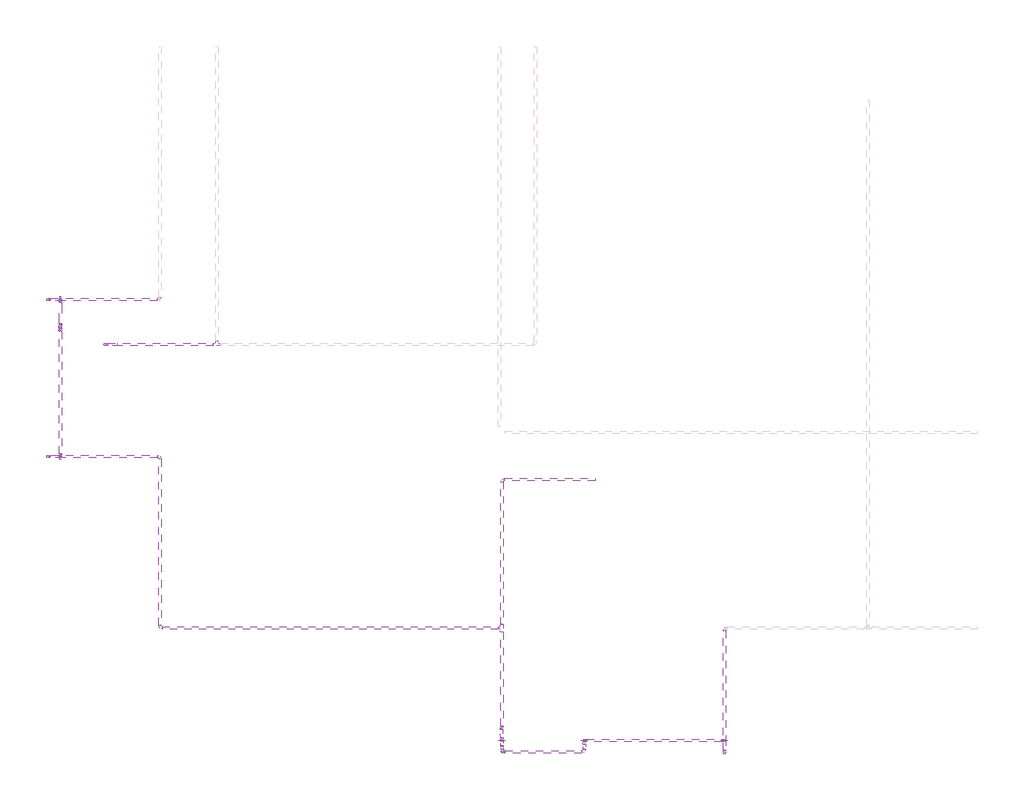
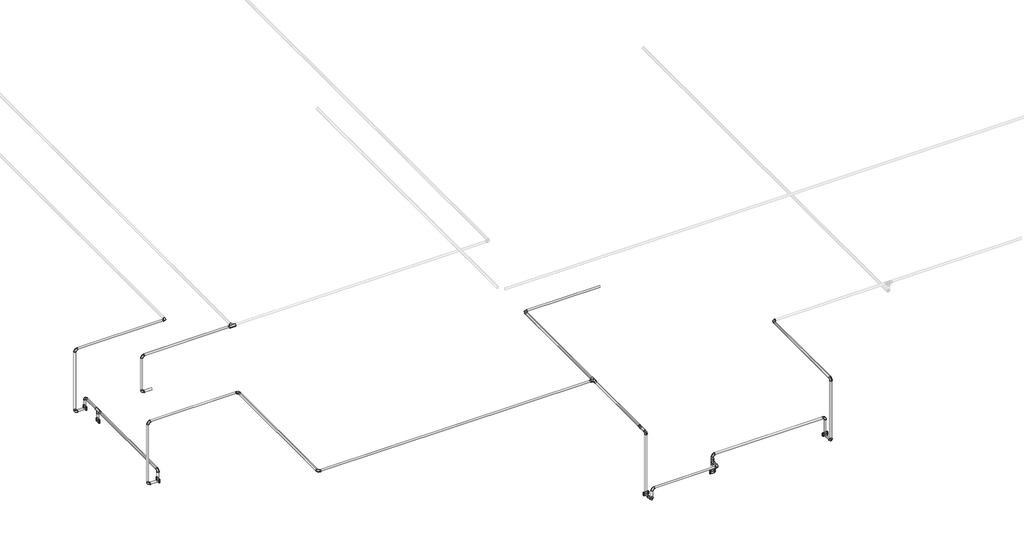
# One storey, part 1 of 40: 34 cable carrier segments, 28 cable carrier fittings, 6 electric appliances.
"""IFC4 building model written with IfcOpenShell, lengths in millimetres."""

from ifc_helpers import new_model, si_unit, point, frame, frame_2d, origin, place, context, project, spatial, circle_curve, trimmed, segment, composite_curve, outline, extrude, transform, mapped, element, save
from components import cable_carrier_fitting_69f1a801, cable_carrier_fitting_ac595e77, cable_carrier_fitting_7c9a67d1, cable_carrier_fitting_f46455be, cable_carrier_fitting_3bca51ac, cable_carrier_fitting_8fd13dfc, electric_appliance_5961a143

model = new_model("IFC4")

# Units and contexts
model_context = context("Model", 3, world=origin())
ifc_project = project(units=[si_unit("LENGTHUNIT", "METRE", prefix="MILLI")], contexts=[model_context])

# Site, building, storey
site = spatial("IfcSite", under=ifc_project)
building = spatial("IfcBuilding", under=site)
storey = spatial("IfcBuildingStorey", under=building, Name="1 этаж", Elevation=0.0)

# Cable carrier fittings
placement = place(None, origin())
cable_carrier_fitting_shape = cable_carrier_fitting_69f1a801(model_context)
element("IfcCableCarrierFitting", 1, ObjectType="ADSK_Поворот_Минимальный размер : Неспецифицируемый", at=placement, inside=storey, context=model_context, shape_type="MappedRepresentation", body=[
    mapped(cable_carrier_fitting_shape, transform((-32971.3240021, -12259.3629895, 2720.0), x_axis=(0.0, 0.0, 1.0), y_axis=(-1.0, 0.0, 0.0), z_axis=(0.0, -1.0, 0.0))),
])
element("IfcCableCarrierFitting", 2, ObjectType="ADSK_Поворот_Минимальный размер : Неспецифицируемый", at=placement, inside=storey, context=model_context, shape_type="MappedRepresentation", body=[
    mapped(cable_carrier_fitting_shape, transform((-34092.3240021, -12259.3629895, 2720.0), x_axis=(0.0, 0.0, 1.0), y_axis=(1.0, 0.0, 0.0), z_axis=(0.0, 1.0, 0.0))),
])
element("IfcCableCarrierFitting", 3, ObjectType="ADSK_Поворот_Минимальный размер : Неспецифицируемый", at=placement, inside=storey, context=model_context, shape_type="MappedRepresentation", body=[
    mapped(cable_carrier_fitting_shape, transform((-34092.3240021, -12351.2996994, 2650.0), x_axis=(1.0, 0.0, 0.0), y_axis=(0.0, 1.0, 0.0), z_axis=(0.0, 0.0, 1.0))),
])
element("IfcCableCarrierFitting", 4, ObjectType="ADSK_Поворот_Минимальный размер : Неспецифицируемый", at=placement, inside=storey, context=model_context, shape_type="MappedRepresentation", body=[
    mapped(cable_carrier_fitting_shape, transform((-32971.3240021, -12359.5627951, 2534.0911237), x_axis=(0.0, -1.0, 0.0), y_axis=(0.0, 0.0, 1.0), z_axis=(-1.0, 0.0, 0.0))),
])
element("IfcCableCarrierFitting", 5, ObjectType="ADSK_Поворот_Минимальный размер : Неспецифицируемый", at=placement, inside=storey, context=model_context, shape_type="MappedRepresentation", body=[
    mapped(cable_carrier_fitting_shape, transform((-32971.3240021, -12359.5627951, 3187.0), x_axis=(0.0, 0.0, 1.0), y_axis=(0.0, 1.0, 0.0), z_axis=(-1.0, 0.0, 0.0))),
])
element("IfcCableCarrierFitting", 6, ObjectType="ADSK_Поворот_Минимальный размер : Неспецифицируемый", at=placement, inside=storey, context=model_context, shape_type="MappedRepresentation", body=[
    mapped(cable_carrier_fitting_shape, transform((-32971.3240021, -11359.5627951, 3187.0), x_axis=(-1.0, 0.0, 0.0), y_axis=(0.0, -1.0, 0.0), z_axis=(0.0, 0.0, 1.0))),
])
element("IfcCableCarrierFitting", 7, ObjectType="ADSK_Поворот_Минимальный размер : Неспецифицируемый", at=placement, inside=storey, context=model_context, shape_type="MappedRepresentation", body=[
    mapped(cable_carrier_fitting_shape, transform((-34752.3240021, -12259.3629895, 3187.0), x_axis=(0.0, 0.0, 1.0), y_axis=(-0.01289655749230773, 0.9999168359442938, 0.0), z_axis=(-0.9999168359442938, -0.01289655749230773, 0.0))),
])
element("IfcCableCarrierFitting", 8, ObjectType="ADSK_Поворот_Минимальный размер : Неспецифицируемый", at=placement, inside=storey, context=model_context, shape_type="MappedRepresentation", body=[
    mapped(cable_carrier_fitting_shape, transform((-38286.3240021, -8731.3629895, 2650.0), x_axis=(0.0, 0.0, 1.0), y_axis=(0.0, -1.0, 0.0), z_axis=(1.0, 0.0, 0.0))),
])
element("IfcCableCarrierFitting", 9, ObjectType="ADSK_Поворот_Минимальный размер : Неспецифицируемый", at=placement, inside=storey, context=model_context, shape_type="MappedRepresentation", body=[
    mapped(cable_carrier_fitting_shape, transform((-38286.3240021, -9985.3629895, 2650.0), x_axis=(0.0, 0.0, 1.0), y_axis=(0.0, 1.0, 0.0), z_axis=(-1.0, 0.0, 0.0))),
])
element("IfcCableCarrierFitting", 10, ObjectType="ADSK_Поворот_Минимальный размер : Неспецифицируемый", at=placement, inside=storey, context=model_context, shape_type="MappedRepresentation", body=[
    mapped(cable_carrier_fitting_shape, transform((-38386.5238077, -8731.3629895, 2534.0911237), x_axis=(-1.0, 0.0, 0.0), y_axis=(0.0, 0.0, 1.0), z_axis=(0.0, 1.0, 0.0))),
])
element("IfcCableCarrierFitting", 11, ObjectType="ADSK_Поворот_Минимальный размер : Неспецифицируемый", at=placement, inside=storey, context=model_context, shape_type="MappedRepresentation", body=[
    mapped(cable_carrier_fitting_shape, transform((-38386.5238077, -8731.3629895, 3187.0), x_axis=(0.0, 0.0, 1.0), y_axis=(1.0, 0.0, 0.0), z_axis=(0.0, 1.0, 0.0))),
])
element("IfcCableCarrierFitting", 12, ObjectType="ADSK_Поворот_Минимальный размер : Неспецифицируемый", at=placement, inside=storey, context=model_context, shape_type="MappedRepresentation", body=[
    mapped(cable_carrier_fitting_shape, transform((-38386.5238077, -9985.3629895, 2534.0911237), x_axis=(-1.0, 0.0, 0.0), y_axis=(0.0, 0.0, 1.0), z_axis=(0.0, 1.0, 0.0))),
])
element("IfcCableCarrierFitting", 13, ObjectType="ADSK_Поворот_Минимальный размер : Неспецифицируемый", at=placement, inside=storey, context=model_context, shape_type="MappedRepresentation", body=[
    mapped(cable_carrier_fitting_shape, transform((-38386.5238077, -9985.3629895, 3187.0), x_axis=(0.0, 0.0, 1.0), y_axis=(1.0, 0.0, 0.0), z_axis=(0.0, 1.0, 0.0))),
])
element("IfcCableCarrierFitting", 14, ObjectType="ADSK_Поворот_Минимальный размер : Неспецифицируемый", at=placement, inside=storey, context=model_context, shape_type="MappedRepresentation", body=[
    mapped(cable_carrier_fitting_shape, transform((-37489.3240021, -9985.3629895, 3187.0), x_axis=(0.0, 1.0, 0.0), y_axis=(-1.0, 0.0, 0.0), z_axis=(0.0, 0.0, 1.0))),
])
element("IfcCableCarrierFitting", 15, ObjectType="ADSK_Поворот_Минимальный размер : Неспецифицируемый", at=placement, inside=storey, context=model_context, shape_type="MappedRepresentation", body=[
    mapped(cable_carrier_fitting_shape, transform((-37489.3240021, -8731.3629895, 3187.0), x_axis=(1.0, 0.0, 0.0), y_axis=(0.0, 1.0, 0.0), z_axis=(0.0, 0.0, 1.0))),
])
element("IfcCableCarrierFitting", 16, ObjectType="ADSK_Поворот_Минимальный размер : Неспецифицируемый", at=placement, inside=storey, context=model_context, shape_type="MappedRepresentation", body=[
    mapped(cable_carrier_fitting_shape, transform((-34752.3240021, -10170.3629895, 3187.0), x_axis=(-1.0, 0.0, 0.0), y_axis=(0.0, -1.0, 0.0), z_axis=(0.0, 0.0, 1.0))),
])
element("IfcCableCarrierFitting", 17, ObjectType="ADSK_Поворот_Минимальный размер : Неспецифицируемый", at=placement, inside=storey, context=model_context, shape_type="MappedRepresentation", body=[
    mapped(cable_carrier_fitting_shape, transform((-37489.3240021, -11359.5627951, 3187.0), x_axis=(0.0, -1.0, 0.0), y_axis=(1.0, 0.0, 0.0), z_axis=(0.0, 0.0, 1.0))),
])
element("IfcCableCarrierFitting", 18, ObjectType="ADSK_Поворот_Минимальный размер : Неспецифицируемый", at=placement, inside=storey, context=model_context, shape_type="MappedRepresentation", body=[
    mapped(cable_carrier_fitting_shape, transform((-34745.5114343, -12351.2996994, 2650.0), x_axis=(-1.0, 0.0, 0.0), y_axis=(0.0, 0.0, -1.0), z_axis=(0.0, -1.0, 0.0))),
])
element("IfcCableCarrierFitting", 19, ObjectType="ADSK_Поворот_Минимальный размер : Неспецифицируемый", at=placement, inside=storey, context=model_context, shape_type="MappedRepresentation", body=[
    mapped(cable_carrier_fitting_shape, transform((-37929.5238077, -9090.3629895, 2797.4861504), x_axis=(-1.0, 0.0, 0.0), y_axis=(0.0, 0.0, 1.0), z_axis=(0.0, 1.0, 0.0))),
])
element("IfcCableCarrierFitting", 20, ObjectType="ADSK_Поворот_Минимальный размер : Неспецифицируемый", at=placement, inside=storey, context=model_context, shape_type="MappedRepresentation", body=[
    mapped(cable_carrier_fitting_shape, transform((-37929.5238077, -9090.3629895, 3180.0), x_axis=(0.0, 0.0, 1.0), y_axis=(1.0, 0.0, 0.0), z_axis=(0.0, 1.0, 0.0))),
])
cable_carrier_fitting_2_shape = cable_carrier_fitting_ac595e77(model_context)
element("IfcCableCarrierFitting", 21, ObjectType="ADSK_Поворот_Минимальный размер : Неспецифицируемый", at=placement, inside=storey, context=model_context, shape_type="MappedRepresentation", body=[
    mapped(cable_carrier_fitting_2_shape, transform((-34753.8483727, -12169.5072851, 3187.0), x_axis=(-0.07233188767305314, -0.9973806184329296, 0.0), y_axis=(0.9973806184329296, -0.07233188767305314, 0.0), z_axis=(0.0, 0.0, 1.0))),
])
cable_carrier_fitting_3_shape = cable_carrier_fitting_7c9a67d1(model_context)
element("IfcCableCarrierFitting", 22, ObjectType="ADSK_Поворот_Минимальный размер : Неспецифицируемый", at=placement, inside=storey, context=model_context, shape_type="MappedRepresentation", body=[
    mapped(cable_carrier_fitting_3_shape, transform((-34752.3240021, -12148.4878187, 3187.0), x_axis=(0.07233188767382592, 0.9973806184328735, 0.0), y_axis=(-0.9973806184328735, 0.07233188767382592, 0.0), z_axis=(0.0, 0.0, 1.0))),
])
cable_carrier_fitting_4_shape = cable_carrier_fitting_f46455be(model_context)
element("IfcCableCarrierFitting", 23, ObjectType="ADSK_Поворот_Минимальный размер : Неспецифицируемый", at=placement, inside=storey, context=model_context, shape_type="MappedRepresentation", body=[
    mapped(cable_carrier_fitting_4_shape, transform((-34752.3240021, -12302.3629895, 2534.0911237), x_axis=(0.0, -1.0, 0.0), y_axis=(0.9999991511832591, 0.0, 0.0013029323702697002), z_axis=(-0.0013029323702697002, 0.0, 0.9999991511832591))),
])
cable_carrier_fitting_5_shape = cable_carrier_fitting_3bca51ac(model_context)
element("IfcCableCarrierFitting", 24, ObjectType="ADSK_Поворот_Минимальный размер : Неспецифицируемый", at=placement, inside=storey, context=model_context, shape_type="MappedRepresentation", body=[
    mapped(cable_carrier_fitting_5_shape, transform((-34745.5114343, -12351.2996994, 2534.1), x_axis=(0.0, 0.0, -1.0), y_axis=(-0.13788214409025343, 0.9904486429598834, 0.0), z_axis=(0.9904486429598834, 0.13788214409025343, 0.0))),
])
cable_carrier_fitting_6_shape = cable_carrier_fitting_8fd13dfc(model_context)
element("IfcCableCarrierFitting", 25, ObjectType="ADSK_Тройник : ПВХ", at=placement, inside=storey, context=model_context, shape_type="MappedRepresentation", body=[
    mapped(cable_carrier_fitting_6_shape, transform((-34092.3240021, -12259.3629895, 2650.0), x_axis=(0.0, 0.0, -1.0), y_axis=(0.0, 1.0, 0.0), z_axis=(1.0, 0.0, 0.0))),
])
element("IfcCableCarrierFitting", 26, ObjectType="ADSK_Тройник : ПВХ", at=placement, inside=storey, context=model_context, shape_type="MappedRepresentation", body=[
    mapped(cable_carrier_fitting_6_shape, transform((-38286.3240021, -8955.3629895, 2650.0), x_axis=(0.0, 1.0, 0.0), y_axis=(0.0, 0.0, 1.0), z_axis=(1.0, 0.0, 0.0))),
])
element("IfcCableCarrierFitting", 27, ObjectType="ADSK_Тройник : ПВХ", at=placement, inside=storey, context=model_context, shape_type="MappedRepresentation", body=[
    mapped(cable_carrier_fitting_6_shape, transform((-34752.3240021, -11359.5627951, 3187.0), x_axis=(0.0, -1.0, 0.0), y_axis=(1.0, 0.0, 0.0), z_axis=(0.0, 0.0, 1.0))),
])
element("IfcCableCarrierFitting", 28, ObjectType="ADSK_Тройник : ПВХ", at=placement, inside=storey, context=model_context, shape_type="MappedRepresentation", body=[
    mapped(cable_carrier_fitting_6_shape, transform((-37032.3240021, -9090.3629895, 3180.0), x_axis=(-1.0, 0.0, 0.0), y_axis=(0.0, -1.0, 0.0), z_axis=(0.0, 0.0, 1.0))),
])

# Cable carrier segments
element("IfcCableCarrierSegment", 29, ObjectType="Гофрированная труба", at=placement, inside=storey, context=model_context, shape_type="SweptSolid", body=[
    extrude(outline(composite_curve([segment(trimmed(circle_curve(frame_2d((-12259.3629895, 2720.0)), 10.0), [point((-12249.3629895, 2720.0))], [point((-12259.3629895, 2710.0))], False, "CARTESIAN"), True, "CONTINUOUS"), segment(trimmed(circle_curve(frame_2d((-12259.3629895, 2720.0)), 10.0), [point((-12259.3629895, 2710.0))], [point((-12269.3629895, 2720.0))], False, "CARTESIAN"), True, "CONTINUOUS"), segment(trimmed(circle_curve(frame_2d((-12259.3629895, 2720.0)), 10.0), [point((-12269.3629895, 2720.0))], [point((-12259.3629895, 2730.0))], False, "CARTESIAN"), True, "CONTINUOUS"), segment(trimmed(circle_curve(frame_2d((-12259.3629895, 2720.0)), 10.0), [point((-12259.3629895, 2730.0))], [point((-12249.3629895, 2720.0))], False, "CARTESIAN"), True, "CONTINUOUS")], self_intersect=False)), frame((-34071.3240021, 0.0, 0.0), z_axis=(1.0, 0.0, 0.0), x_axis=(0.0, 1.0, 0.0)), (0.0, 0.0, 1.0), 1079.0),
])
element("IfcCableCarrierSegment", 30, ObjectType="Гофрированная труба", at=placement, inside=storey, context=model_context, shape_type="SweptSolid", body=[
    extrude(outline(composite_curve([segment(trimmed(circle_curve(frame_2d((-32971.3240021, -12259.3629895)), 10.0), [point((-32981.3240021, -12259.3629895))], [point((-32971.3240021, -12249.3629895))], False, "CARTESIAN"), True, "CONTINUOUS"), segment(trimmed(circle_curve(frame_2d((-32971.3240021, -12259.3629895)), 10.0), [point((-32971.3240021, -12249.3629895))], [point((-32961.3240021, -12259.3629895))], False, "CARTESIAN"), True, "CONTINUOUS"), segment(trimmed(circle_curve(frame_2d((-32971.3240021, -12259.3629895)), 10.0), [point((-32961.3240021, -12259.3629895))], [point((-32971.3240021, -12269.3629895))], False, "CARTESIAN"), True, "CONTINUOUS"), segment(trimmed(circle_curve(frame_2d((-32971.3240021, -12259.3629895)), 10.0), [point((-32971.3240021, -12269.3629895))], [point((-32981.3240021, -12259.3629895))], False, "CARTESIAN"), True, "CONTINUOUS")], self_intersect=False)), frame((0.0, 0.0, 2563.1207114), z_axis=(0.0, 0.0, 1.0), x_axis=(1.0, 0.0, 0.0)), (0.0, 0.0, 1.0), 135.8792886),
])
element("IfcCableCarrierSegment", 31, ObjectType="Гофрированная труба", at=placement, inside=storey, context=model_context, shape_type="SweptSolid", body=[
    extrude(outline(composite_curve([segment(trimmed(circle_curve(frame_2d((0.0, 10.0)), 10.0), [point((-10.0, 10.0))], [point((0.0, 20.0))], False, "CARTESIAN"), True, "CONTINUOUS"), segment(trimmed(circle_curve(frame_2d((0.0, 10.0)), 10.0), [point((0.0, 20.0))], [point((10.0, 10.0))], False, "CARTESIAN"), True, "CONTINUOUS"), segment(trimmed(circle_curve(frame_2d((0.0, 10.0)), 10.0), [point((10.0, 10.0))], [point((0.0, 0.0))], False, "CARTESIAN"), True, "CONTINUOUS"), segment(trimmed(circle_curve(frame_2d((0.0, 10.0)), 10.0), [point((0.0, 0.0))], [point((-10.0, 10.0))], False, "CARTESIAN"), True, "CONTINUOUS")], self_intersect=False)), frame((-34092.3240021, -12269.3629895, 2680.0), z_axis=(0.0, 1.4889423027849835e-12, 1.0), x_axis=(1.0, 0.0, 0.0)), (0.0, 0.0, 1.0), 19.0),
])
element("IfcCableCarrierSegment", 32, ObjectType="Гофрированная труба", at=placement, inside=storey, context=model_context, shape_type="SweptSolid", body=[
    extrude(outline(composite_curve([segment(trimmed(circle_curve(frame_2d((-12351.2996994, 2650.0)), 10.0), [point((-12361.2996994, 2650.0))], [point((-12351.2996994, 2660.0))], False, "CARTESIAN"), True, "CONTINUOUS"), segment(trimmed(circle_curve(frame_2d((-12351.2996994, 2650.0)), 10.0), [point((-12351.2996994, 2660.0))], [point((-12341.2996994, 2650.0))], False, "CARTESIAN"), True, "CONTINUOUS"), segment(trimmed(circle_curve(frame_2d((-12351.2996994, 2650.0)), 10.0), [point((-12341.2996994, 2650.0))], [point((-12351.2996994, 2640.0))], False, "CARTESIAN"), True, "CONTINUOUS"), segment(trimmed(circle_curve(frame_2d((-12351.2996994, 2650.0)), 10.0), [point((-12351.2996994, 2640.0))], [point((-12361.2996994, 2650.0))], False, "CARTESIAN"), True, "CONTINUOUS")], self_intersect=False)), frame((-34724.5114343, 0.0, 0.0), z_axis=(1.0, 0.0, 0.0), x_axis=(0.0, 1.0, 0.0)), (0.0, 0.0, 1.0), 611.1874322),
])
element("IfcCableCarrierSegment", 33, ObjectType="Гофрированная труба", at=placement, inside=storey, context=model_context, shape_type="SweptSolid", body=[
    extrude(outline(composite_curve([segment(trimmed(circle_curve(frame_2d((2650.0, -34092.3240021)), 10.0), [point((2650.0, -34102.3240021))], [point((2640.0, -34092.3240021))], False, "CARTESIAN"), True, "CONTINUOUS"), segment(trimmed(circle_curve(frame_2d((2650.0, -34092.3240021)), 10.0), [point((2640.0, -34092.3240021))], [point((2650.0, -34082.3240021))], False, "CARTESIAN"), True, "CONTINUOUS"), segment(trimmed(circle_curve(frame_2d((2650.0, -34092.3240021)), 10.0), [point((2650.0, -34082.3240021))], [point((2660.0, -34092.3240021))], False, "CARTESIAN"), True, "CONTINUOUS"), segment(trimmed(circle_curve(frame_2d((2650.0, -34092.3240021)), 10.0), [point((2660.0, -34092.3240021))], [point((2650.0, -34102.3240021))], False, "CARTESIAN"), True, "CONTINUOUS")], self_intersect=False)), frame((0.0, -12330.2996994, 0.0), z_axis=(0.0, 1.0, 0.0), x_axis=(0.0, 0.0, 1.0)), (0.0, 0.0, 1.0), 40.9367099),
])
element("IfcCableCarrierSegment", 34, ObjectType="Гофрированная труба", at=placement, inside=storey, context=model_context, shape_type="SweptSolid", body=[
    extrude(outline(composite_curve([segment(trimmed(circle_curve(frame_2d((-34092.3240021, -12259.3629895)), 10.0), [point((-34102.3240021, -12259.3629895))], [point((-34092.3240021, -12249.3629895))], False, "CARTESIAN"), True, "CONTINUOUS"), segment(trimmed(circle_curve(frame_2d((-34092.3240021, -12259.3629895)), 10.0), [point((-34092.3240021, -12249.3629895))], [point((-34082.3240021, -12259.3629895))], False, "CARTESIAN"), True, "CONTINUOUS"), segment(trimmed(circle_curve(frame_2d((-34092.3240021, -12259.3629895)), 10.0), [point((-34082.3240021, -12259.3629895))], [point((-34092.3240021, -12269.3629895))], False, "CARTESIAN"), True, "CONTINUOUS"), segment(trimmed(circle_curve(frame_2d((-34092.3240021, -12259.3629895)), 10.0), [point((-34092.3240021, -12269.3629895))], [point((-34102.3240021, -12259.3629895))], False, "CARTESIAN"), True, "CONTINUOUS")], self_intersect=False)), frame((0.0, 0.0, 2563.1207114), z_axis=(0.0, 0.0, 1.0), x_axis=(1.0, 0.0, 0.0)), (0.0, 0.0, 1.0), 56.8792886),
])
element("IfcCableCarrierSegment", 35, ObjectType="Гофрированная труба", at=placement, inside=storey, context=model_context, shape_type="SweptSolid", body=[
    extrude(outline(composite_curve([segment(trimmed(circle_curve(frame_2d((3187.0, -32971.3240021)), 10.0), [point((3187.0, -32961.3240021))], [point((3197.0, -32971.3240021))], False, "CARTESIAN"), True, "CONTINUOUS"), segment(trimmed(circle_curve(frame_2d((3187.0, -32971.3240021)), 10.0), [point((3197.0, -32971.3240021))], [point((3187.0, -32981.3240021))], False, "CARTESIAN"), True, "CONTINUOUS"), segment(trimmed(circle_curve(frame_2d((3187.0, -32971.3240021)), 10.0), [point((3187.0, -32981.3240021))], [point((3177.0, -32971.3240021))], False, "CARTESIAN"), True, "CONTINUOUS"), segment(trimmed(circle_curve(frame_2d((3187.0, -32971.3240021)), 10.0), [point((3177.0, -32971.3240021))], [point((3187.0, -32961.3240021))], False, "CARTESIAN"), True, "CONTINUOUS")], self_intersect=False)), frame((0.0, -12338.5627951, 0.0), z_axis=(0.0, 1.0, 0.0), x_axis=(0.0, 0.0, 1.0)), (0.0, 0.0, 1.0), 958.0),
])
element("IfcCableCarrierSegment", 36, ObjectType="Гофрированная труба", at=placement, inside=storey, context=model_context, shape_type="SweptSolid", body=[
    extrude(outline(composite_curve([segment(trimmed(circle_curve(frame_2d((2534.0911237, -32971.3240021)), 10.0), [point((2534.0911237, -32981.3240021))], [point((2524.0911237, -32971.3240021))], False, "CARTESIAN"), True, "CONTINUOUS"), segment(trimmed(circle_curve(frame_2d((2534.0911237, -32971.3240021)), 10.0), [point((2524.0911237, -32971.3240021))], [point((2534.0911237, -32961.3240021))], False, "CARTESIAN"), True, "CONTINUOUS"), segment(trimmed(circle_curve(frame_2d((2534.0911237, -32971.3240021)), 10.0), [point((2534.0911237, -32961.3240021))], [point((2544.0911237, -32971.3240021))], False, "CARTESIAN"), True, "CONTINUOUS"), segment(trimmed(circle_curve(frame_2d((2534.0911237, -32971.3240021)), 10.0), [point((2544.0911237, -32971.3240021))], [point((2534.0911237, -32981.3240021))], False, "CARTESIAN"), True, "CONTINUOUS")], self_intersect=False)), frame((0.0, -12338.5627951, 0.0), z_axis=(0.0, 1.0, 0.0), x_axis=(0.0, 0.0, 1.0)), (0.0, 0.0, 1.0), 76.1998056),
])
element("IfcCableCarrierSegment", 37, ObjectType="Гофрированная труба", at=placement, inside=storey, context=model_context, shape_type="SweptSolid", body=[
    extrude(outline(composite_curve([segment(trimmed(circle_curve(frame_2d((-32971.3240021, -12359.5627951)), 10.0), [point((-32981.3240021, -12359.5627951))], [point((-32971.3240021, -12349.5627951))], False, "CARTESIAN"), True, "CONTINUOUS"), segment(trimmed(circle_curve(frame_2d((-32971.3240021, -12359.5627951)), 10.0), [point((-32971.3240021, -12349.5627951))], [point((-32961.3240021, -12359.5627951))], False, "CARTESIAN"), True, "CONTINUOUS"), segment(trimmed(circle_curve(frame_2d((-32971.3240021, -12359.5627951)), 10.0), [point((-32961.3240021, -12359.5627951))], [point((-32971.3240021, -12369.5627951))], False, "CARTESIAN"), True, "CONTINUOUS"), segment(trimmed(circle_curve(frame_2d((-32971.3240021, -12359.5627951)), 10.0), [point((-32971.3240021, -12369.5627951))], [point((-32981.3240021, -12359.5627951))], False, "CARTESIAN"), True, "CONTINUOUS")], self_intersect=False)), frame((0.0, 0.0, 2555.0911237), z_axis=(0.0, 0.0, 1.0), x_axis=(1.0, 0.0, 0.0)), (0.0, 0.0, 1.0), 610.9088763),
])
element("IfcCableCarrierSegment", 38, ObjectType="Гофрированная труба", at=placement, inside=storey, context=model_context, shape_type="SweptSolid", body=[
    extrude(outline(composite_curve([segment(trimmed(circle_curve(frame_2d((3187.0, -34752.3240021)), 10.0), [point((3187.0, -34762.3240021))], [point((3177.0, -34752.3240021))], False, "CARTESIAN"), True, "CONTINUOUS"), segment(trimmed(circle_curve(frame_2d((3187.0, -34752.3240021)), 10.0), [point((3177.0, -34752.3240021))], [point((3187.0, -34742.3240021))], False, "CARTESIAN"), True, "CONTINUOUS"), segment(trimmed(circle_curve(frame_2d((3187.0, -34752.3240021)), 10.0), [point((3187.0, -34742.3240021))], [point((3197.0, -34752.3240021))], False, "CARTESIAN"), True, "CONTINUOUS"), segment(trimmed(circle_curve(frame_2d((3187.0, -34752.3240021)), 10.0), [point((3197.0, -34752.3240021))], [point((3187.0, -34762.3240021))], False, "CARTESIAN"), True, "CONTINUOUS")], self_intersect=False)), frame((0.0, -12146.7635513, 0.0), z_axis=(0.0, 1.0, 0.0), x_axis=(0.0, 0.0, 1.0)), (0.0, 0.0, 1.0), 757.2007562),
])
element("IfcCableCarrierSegment", 39, ObjectType="Гофрированная труба", at=placement, inside=storey, context=model_context, shape_type="SweptSolid", body=[
    extrude(outline(composite_curve([segment(trimmed(circle_curve(frame_2d((-34752.3240021, -12259.3629895)), 10.0), [point((-34762.3240021, -12259.3629895))], [point((-34752.3240021, -12249.3629895))], False, "CARTESIAN"), True, "CONTINUOUS"), segment(trimmed(circle_curve(frame_2d((-34752.3240021, -12259.3629895)), 10.0), [point((-34752.3240021, -12249.3629895))], [point((-34742.3240021, -12259.3629895))], False, "CARTESIAN"), True, "CONTINUOUS"), segment(trimmed(circle_curve(frame_2d((-34752.3240021, -12259.3629895)), 10.0), [point((-34742.3240021, -12259.3629895))], [point((-34752.3240021, -12269.3629895))], False, "CARTESIAN"), True, "CONTINUOUS"), segment(trimmed(circle_curve(frame_2d((-34752.3240021, -12259.3629895)), 10.0), [point((-34752.3240021, -12269.3629895))], [point((-34762.3240021, -12259.3629895))], False, "CARTESIAN"), True, "CONTINUOUS")], self_intersect=False)), frame((0.0, 0.0, 2563.1207114), z_axis=(0.0, 0.0, 1.0), x_axis=(1.0, 0.0, 0.0)), (0.0, 0.0, 1.0), 602.8792886),
])
element("IfcCableCarrierSegment", 40, ObjectType="Гофрированная труба", at=placement, inside=storey, context=model_context, shape_type="SweptSolid", body=[
    extrude(outline(composite_curve([segment(trimmed(circle_curve(frame_2d((-11359.5627951, 3187.0)), 10.0), [point((-11369.5627951, 3187.0))], [point((-11359.5627951, 3197.0))], False, "CARTESIAN"), True, "CONTINUOUS"), segment(trimmed(circle_curve(frame_2d((-11359.5627951, 3187.0)), 10.0), [point((-11359.5627951, 3197.0))], [point((-11349.5627951, 3187.0))], False, "CARTESIAN"), True, "CONTINUOUS"), segment(trimmed(circle_curve(frame_2d((-11359.5627951, 3187.0)), 10.0), [point((-11349.5627951, 3187.0))], [point((-11359.5627951, 3177.0))], False, "CARTESIAN"), True, "CONTINUOUS"), segment(trimmed(circle_curve(frame_2d((-11359.5627951, 3187.0)), 10.0), [point((-11359.5627951, 3177.0))], [point((-11369.5627951, 3187.0))], False, "CARTESIAN"), True, "CONTINUOUS")], self_intersect=False)), frame((-37468.3240021, 0.0, 0.0), z_axis=(1.0, 0.0, 0.0), x_axis=(0.0, 1.0, 0.0)), (0.0, 0.0, 1.0), 2686.0),
])
element("IfcCableCarrierSegment", 41, ObjectType="Гофрированная труба", at=placement, inside=storey, context=model_context, shape_type="SweptSolid", body=[
    extrude(outline(composite_curve([segment(trimmed(circle_curve(frame_2d((-38286.3240021, -8955.3629895)), 10.0), [point((-38296.3240021, -8955.3629895))], [point((-38286.3240021, -8945.3629895))], False, "CARTESIAN"), True, "CONTINUOUS"), segment(trimmed(circle_curve(frame_2d((-38286.3240021, -8955.3629895)), 10.0), [point((-38286.3240021, -8945.3629895))], [point((-38276.3240021, -8955.3629895))], False, "CARTESIAN"), True, "CONTINUOUS"), segment(trimmed(circle_curve(frame_2d((-38286.3240021, -8955.3629895)), 10.0), [point((-38276.3240021, -8955.3629895))], [point((-38286.3240021, -8965.3629895))], False, "CARTESIAN"), True, "CONTINUOUS"), segment(trimmed(circle_curve(frame_2d((-38286.3240021, -8955.3629895)), 10.0), [point((-38286.3240021, -8965.3629895))], [point((-38296.3240021, -8955.3629895))], False, "CARTESIAN"), True, "CONTINUOUS")], self_intersect=False)), frame((0.0, 0.0, 2563.1207114), z_axis=(0.0, 0.0, 1.0), x_axis=(1.0, 0.0, 0.0)), (0.0, 0.0, 1.0), 56.8792886),
])
element("IfcCableCarrierSegment", 42, ObjectType="Гофрированная труба", at=placement, inside=storey, context=model_context, shape_type="SweptSolid", body=[
    extrude(outline(composite_curve([segment(trimmed(circle_curve(frame_2d((-38286.3240021, -9985.3629895)), 10.0), [point((-38296.3240021, -9985.3629895))], [point((-38286.3240021, -9975.3629895))], False, "CARTESIAN"), True, "CONTINUOUS"), segment(trimmed(circle_curve(frame_2d((-38286.3240021, -9985.3629895)), 10.0), [point((-38286.3240021, -9975.3629895))], [point((-38276.3240021, -9985.3629895))], False, "CARTESIAN"), True, "CONTINUOUS"), segment(trimmed(circle_curve(frame_2d((-38286.3240021, -9985.3629895)), 10.0), [point((-38276.3240021, -9985.3629895))], [point((-38286.3240021, -9995.3629895))], False, "CARTESIAN"), True, "CONTINUOUS"), segment(trimmed(circle_curve(frame_2d((-38286.3240021, -9985.3629895)), 10.0), [point((-38286.3240021, -9995.3629895))], [point((-38296.3240021, -9985.3629895))], False, "CARTESIAN"), True, "CONTINUOUS")], self_intersect=False)), frame((0.0, 0.0, 2563.1207114), z_axis=(0.0, 0.0, 1.0), x_axis=(1.0, 0.0, 0.0)), (0.0, 0.0, 1.0), 65.8792886),
])
element("IfcCableCarrierSegment", 43, ObjectType="Гофрированная труба", at=placement, inside=storey, context=model_context, shape_type="SweptSolid", body=[
    extrude(outline(composite_curve([segment(trimmed(circle_curve(frame_2d((2650.0, -38286.3240021)), 10.0), [point((2650.0, -38296.3240021))], [point((2640.0, -38286.3240021))], False, "CARTESIAN"), True, "CONTINUOUS"), segment(trimmed(circle_curve(frame_2d((2650.0, -38286.3240021)), 10.0), [point((2640.0, -38286.3240021))], [point((2650.0, -38276.3240021))], False, "CARTESIAN"), True, "CONTINUOUS"), segment(trimmed(circle_curve(frame_2d((2650.0, -38286.3240021)), 10.0), [point((2650.0, -38276.3240021))], [point((2660.0, -38286.3240021))], False, "CARTESIAN"), True, "CONTINUOUS"), segment(trimmed(circle_curve(frame_2d((2650.0, -38286.3240021)), 10.0), [point((2660.0, -38286.3240021))], [point((2650.0, -38296.3240021))], False, "CARTESIAN"), True, "CONTINUOUS")], self_intersect=False)), frame((0.0, -9964.3629895, 0.0), z_axis=(0.0, 1.0, 0.0), x_axis=(0.0, 0.0, 1.0)), (0.0, 0.0, 1.0), 979.0),
])
element("IfcCableCarrierSegment", 44, ObjectType="Гофрированная труба", at=placement, inside=storey, context=model_context, shape_type="SweptSolid", body=[
    extrude(outline(composite_curve([segment(trimmed(circle_curve(frame_2d((-38286.3240021, -8731.3629895)), 10.0), [point((-38296.3240021, -8731.3629895))], [point((-38286.3240021, -8721.3629895))], False, "CARTESIAN"), True, "CONTINUOUS"), segment(trimmed(circle_curve(frame_2d((-38286.3240021, -8731.3629895)), 10.0), [point((-38286.3240021, -8721.3629895))], [point((-38276.3240021, -8731.3629895))], False, "CARTESIAN"), True, "CONTINUOUS"), segment(trimmed(circle_curve(frame_2d((-38286.3240021, -8731.3629895)), 10.0), [point((-38276.3240021, -8731.3629895))], [point((-38286.3240021, -8741.3629895))], False, "CARTESIAN"), True, "CONTINUOUS"), segment(trimmed(circle_curve(frame_2d((-38286.3240021, -8731.3629895)), 10.0), [point((-38286.3240021, -8741.3629895))], [point((-38296.3240021, -8731.3629895))], False, "CARTESIAN"), True, "CONTINUOUS")], self_intersect=False)), frame((0.0, 0.0, 2563.1207114), z_axis=(0.0, 0.0, 1.0), x_axis=(1.0, 0.0, 0.0)), (0.0, 0.0, 1.0), 65.8792886),
])
element("IfcCableCarrierSegment", 45, ObjectType="Гофрированная труба", at=placement, inside=storey, context=model_context, shape_type="SweptSolid", body=[
    extrude(outline(composite_curve([segment(trimmed(circle_curve(frame_2d((2650.0, -38286.3240021)), 10.0), [point((2650.0, -38296.3240021))], [point((2640.0, -38286.3240021))], False, "CARTESIAN"), True, "CONTINUOUS"), segment(trimmed(circle_curve(frame_2d((2650.0, -38286.3240021)), 10.0), [point((2640.0, -38286.3240021))], [point((2650.0, -38276.3240021))], False, "CARTESIAN"), True, "CONTINUOUS"), segment(trimmed(circle_curve(frame_2d((2650.0, -38286.3240021)), 10.0), [point((2650.0, -38276.3240021))], [point((2660.0, -38286.3240021))], False, "CARTESIAN"), True, "CONTINUOUS"), segment(trimmed(circle_curve(frame_2d((2650.0, -38286.3240021)), 10.0), [point((2660.0, -38286.3240021))], [point((2650.0, -38296.3240021))], False, "CARTESIAN"), True, "CONTINUOUS")], self_intersect=False)), frame((0.0, -8925.3629895, 0.0), z_axis=(0.0, 1.0, 0.0), x_axis=(0.0, 0.0, 1.0)), (0.0, 0.0, 1.0), 173.0),
])
element("IfcCableCarrierSegment", 46, ObjectType="Гофрированная труба", at=placement, inside=storey, context=model_context, shape_type="SweptSolid", body=[
    extrude(outline(composite_curve([segment(trimmed(circle_curve(frame_2d((-8731.3629895, 3187.0)), 10.0), [point((-8741.3629895, 3187.0))], [point((-8731.3629895, 3197.0))], False, "CARTESIAN"), True, "CONTINUOUS"), segment(trimmed(circle_curve(frame_2d((-8731.3629895, 3187.0)), 10.0), [point((-8731.3629895, 3197.0))], [point((-8721.3629895, 3187.0))], False, "CARTESIAN"), True, "CONTINUOUS"), segment(trimmed(circle_curve(frame_2d((-8731.3629895, 3187.0)), 10.0), [point((-8721.3629895, 3187.0))], [point((-8731.3629895, 3177.0))], False, "CARTESIAN"), True, "CONTINUOUS"), segment(trimmed(circle_curve(frame_2d((-8731.3629895, 3187.0)), 10.0), [point((-8731.3629895, 3177.0))], [point((-8741.3629895, 3187.0))], False, "CARTESIAN"), True, "CONTINUOUS")], self_intersect=False)), frame((-38365.5238077, 0.0, 0.0), z_axis=(1.0, 0.0, 0.0), x_axis=(0.0, 1.0, 0.0)), (0.0, 0.0, 1.0), 855.1998056),
])
element("IfcCableCarrierSegment", 47, ObjectType="Гофрированная труба", at=placement, inside=storey, context=model_context, shape_type="SweptSolid", body=[
    extrude(outline(composite_curve([segment(trimmed(circle_curve(frame_2d((-8731.3629895, 2534.0911237)), 10.0), [point((-8721.3629895, 2534.0911237))], [point((-8731.3629895, 2524.0911237))], False, "CARTESIAN"), True, "CONTINUOUS"), segment(trimmed(circle_curve(frame_2d((-8731.3629895, 2534.0911237)), 10.0), [point((-8731.3629895, 2524.0911237))], [point((-8741.3629895, 2534.0911237))], False, "CARTESIAN"), True, "CONTINUOUS"), segment(trimmed(circle_curve(frame_2d((-8731.3629895, 2534.0911237)), 10.0), [point((-8741.3629895, 2534.0911237))], [point((-8731.3629895, 2544.0911237))], False, "CARTESIAN"), True, "CONTINUOUS"), segment(trimmed(circle_curve(frame_2d((-8731.3629895, 2534.0911237)), 10.0), [point((-8731.3629895, 2544.0911237))], [point((-8721.3629895, 2534.0911237))], False, "CARTESIAN"), True, "CONTINUOUS")], self_intersect=False)), frame((-38365.5238077, 0.0, 0.0), z_axis=(1.0, 0.0, 0.0), x_axis=(0.0, 1.0, 0.0)), (0.0, 0.0, 1.0), 76.1998056),
])
element("IfcCableCarrierSegment", 48, ObjectType="Гофрированная труба", at=placement, inside=storey, context=model_context, shape_type="SweptSolid", body=[
    extrude(outline(composite_curve([segment(trimmed(circle_curve(frame_2d((-38386.5238077, -8731.3629895)), 10.0), [point((-38396.5238077, -8731.3629895))], [point((-38386.5238077, -8721.3629895))], False, "CARTESIAN"), True, "CONTINUOUS"), segment(trimmed(circle_curve(frame_2d((-38386.5238077, -8731.3629895)), 10.0), [point((-38386.5238077, -8721.3629895))], [point((-38376.5238077, -8731.3629895))], False, "CARTESIAN"), True, "CONTINUOUS"), segment(trimmed(circle_curve(frame_2d((-38386.5238077, -8731.3629895)), 10.0), [point((-38376.5238077, -8731.3629895))], [point((-38386.5238077, -8741.3629895))], False, "CARTESIAN"), True, "CONTINUOUS"), segment(trimmed(circle_curve(frame_2d((-38386.5238077, -8731.3629895)), 10.0), [point((-38386.5238077, -8741.3629895))], [point((-38396.5238077, -8731.3629895))], False, "CARTESIAN"), True, "CONTINUOUS")], self_intersect=False)), frame((0.0, 0.0, 2555.0911237), z_axis=(0.0, 0.0, 1.0), x_axis=(1.0, 0.0, 0.0)), (0.0, 0.0, 1.0), 610.9088763),
])
element("IfcCableCarrierSegment", 49, ObjectType="Гофрированная труба", at=placement, inside=storey, context=model_context, shape_type="SweptSolid", body=[
    extrude(outline(composite_curve([segment(trimmed(circle_curve(frame_2d((-9985.3629895, 3187.0)), 10.0), [point((-9995.3629895, 3187.0))], [point((-9985.3629895, 3197.0))], False, "CARTESIAN"), True, "CONTINUOUS"), segment(trimmed(circle_curve(frame_2d((-9985.3629895, 3187.0)), 10.0), [point((-9985.3629895, 3197.0))], [point((-9975.3629895, 3187.0))], False, "CARTESIAN"), True, "CONTINUOUS"), segment(trimmed(circle_curve(frame_2d((-9985.3629895, 3187.0)), 10.0), [point((-9975.3629895, 3187.0))], [point((-9985.3629895, 3177.0))], False, "CARTESIAN"), True, "CONTINUOUS"), segment(trimmed(circle_curve(frame_2d((-9985.3629895, 3187.0)), 10.0), [point((-9985.3629895, 3177.0))], [point((-9995.3629895, 3187.0))], False, "CARTESIAN"), True, "CONTINUOUS")], self_intersect=False)), frame((-38365.5238077, 0.0, 0.0), z_axis=(1.0, 0.0, 0.0), x_axis=(0.0, 1.0, 0.0)), (0.0, 0.0, 1.0), 855.1998056),
])
element("IfcCableCarrierSegment", 50, ObjectType="Гофрированная труба", at=placement, inside=storey, context=model_context, shape_type="SweptSolid", body=[
    extrude(outline(composite_curve([segment(trimmed(circle_curve(frame_2d((-9985.3629895, 2534.0911237)), 10.0), [point((-9975.3629895, 2534.0911237))], [point((-9985.3629895, 2524.0911237))], False, "CARTESIAN"), True, "CONTINUOUS"), segment(trimmed(circle_curve(frame_2d((-9985.3629895, 2534.0911237)), 10.0), [point((-9985.3629895, 2524.0911237))], [point((-9995.3629895, 2534.0911237))], False, "CARTESIAN"), True, "CONTINUOUS"), segment(trimmed(circle_curve(frame_2d((-9985.3629895, 2534.0911237)), 10.0), [point((-9995.3629895, 2534.0911237))], [point((-9985.3629895, 2544.0911237))], False, "CARTESIAN"), True, "CONTINUOUS"), segment(trimmed(circle_curve(frame_2d((-9985.3629895, 2534.0911237)), 10.0), [point((-9985.3629895, 2544.0911237))], [point((-9975.3629895, 2534.0911237))], False, "CARTESIAN"), True, "CONTINUOUS")], self_intersect=False)), frame((-38365.5238077, 0.0, 0.0), z_axis=(1.0, 0.0, 0.0), x_axis=(0.0, 1.0, 0.0)), (0.0, 0.0, 1.0), 76.1998056),
])
element("IfcCableCarrierSegment", 51, ObjectType="Гофрированная труба", at=placement, inside=storey, context=model_context, shape_type="SweptSolid", body=[
    extrude(outline(composite_curve([segment(trimmed(circle_curve(frame_2d((-38386.5238077, -9985.3629895)), 10.0), [point((-38396.5238077, -9985.3629895))], [point((-38386.5238077, -9975.3629895))], False, "CARTESIAN"), True, "CONTINUOUS"), segment(trimmed(circle_curve(frame_2d((-38386.5238077, -9985.3629895)), 10.0), [point((-38386.5238077, -9975.3629895))], [point((-38376.5238077, -9985.3629895))], False, "CARTESIAN"), True, "CONTINUOUS"), segment(trimmed(circle_curve(frame_2d((-38386.5238077, -9985.3629895)), 10.0), [point((-38376.5238077, -9985.3629895))], [point((-38386.5238077, -9995.3629895))], False, "CARTESIAN"), True, "CONTINUOUS"), segment(trimmed(circle_curve(frame_2d((-38386.5238077, -9985.3629895)), 10.0), [point((-38386.5238077, -9995.3629895))], [point((-38396.5238077, -9985.3629895))], False, "CARTESIAN"), True, "CONTINUOUS")], self_intersect=False)), frame((0.0, 0.0, 2555.0911237), z_axis=(0.0, 0.0, 1.0), x_axis=(1.0, 0.0, 0.0)), (0.0, 0.0, 1.0), 610.9088763),
])
element("IfcCableCarrierSegment", 52, ObjectType="Гофрированная труба", at=placement, inside=storey, context=model_context, shape_type="SweptSolid", body=[
    extrude(outline(composite_curve([segment(trimmed(circle_curve(frame_2d((3187.0, -37489.3240021)), 10.0), [point((3187.0, -37479.3240021))], [point((3197.0, -37489.3240021))], False, "CARTESIAN"), True, "CONTINUOUS"), segment(trimmed(circle_curve(frame_2d((3187.0, -37489.3240021)), 10.0), [point((3197.0, -37489.3240021))], [point((3187.0, -37499.3240021))], False, "CARTESIAN"), True, "CONTINUOUS"), segment(trimmed(circle_curve(frame_2d((3187.0, -37489.3240021)), 10.0), [point((3187.0, -37499.3240021))], [point((3177.0, -37489.3240021))], False, "CARTESIAN"), True, "CONTINUOUS"), segment(trimmed(circle_curve(frame_2d((3187.0, -37489.3240021)), 10.0), [point((3177.0, -37489.3240021))], [point((3187.0, -37479.3240021))], False, "CARTESIAN"), True, "CONTINUOUS")], self_intersect=False)), frame((0.0, -11338.5627951, 0.0), z_axis=(0.0, 1.0, 0.0), x_axis=(0.0, 0.0, 1.0)), (0.0, 0.0, 1.0), 1332.1998056),
])
element("IfcCableCarrierSegment", 53, ObjectType="Гофрированная труба", at=placement, inside=storey, context=model_context, shape_type="SweptSolid", body=[
    extrude(outline(composite_curve([segment(trimmed(circle_curve(frame_2d((-10170.3629895, 3187.0)), 10.0), [point((-10160.3629895, 3187.0))], [point((-10170.3629895, 3177.0))], False, "CARTESIAN"), True, "CONTINUOUS"), segment(trimmed(circle_curve(frame_2d((-10170.3629895, 3187.0)), 10.0), [point((-10170.3629895, 3177.0))], [point((-10180.3629895, 3187.0))], False, "CARTESIAN"), True, "CONTINUOUS"), segment(trimmed(circle_curve(frame_2d((-10170.3629895, 3187.0)), 10.0), [point((-10180.3629895, 3187.0))], [point((-10170.3629895, 3197.0))], False, "CARTESIAN"), True, "CONTINUOUS"), segment(trimmed(circle_curve(frame_2d((-10170.3629895, 3187.0)), 10.0), [point((-10170.3629895, 3197.0))], [point((-10160.3629895, 3187.0))], False, "CARTESIAN"), True, "CONTINUOUS")], self_intersect=False)), frame((-34731.3240021, 0.0, 0.0), z_axis=(1.0, 0.0, 0.0), x_axis=(0.0, 1.0, 0.0)), (0.0, 0.0, 1.0), 726.5382172),
])
element("IfcCableCarrierSegment", 54, ObjectType="Гофрированная труба", at=placement, inside=storey, context=model_context, shape_type="SweptSolid", body=[
    extrude(outline(composite_curve([segment(trimmed(circle_curve(frame_2d((0.0, 10.0)), 10.0), [point((10.0, 10.0))], [point((0.0, 0.0))], False, "CARTESIAN"), True, "CONTINUOUS"), segment(trimmed(circle_curve(frame_2d((0.0, 10.0)), 10.0), [point((0.0, 0.0))], [point((-10.0, 10.0))], False, "CARTESIAN"), True, "CONTINUOUS"), segment(trimmed(circle_curve(frame_2d((0.0, 10.0)), 10.0), [point((-10.0, 10.0))], [point((0.0, 20.0))], False, "CARTESIAN"), True, "CONTINUOUS"), segment(trimmed(circle_curve(frame_2d((0.0, 10.0)), 10.0), [point((0.0, 20.0))], [point((10.0, 10.0))], False, "CARTESIAN"), True, "CONTINUOUS")], self_intersect=False)), frame((-34752.5948298, -12238.3647359, 3197.0), z_axis=(-0.018201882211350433, 0.9998343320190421, 0.0), x_axis=(0.9998343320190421, 0.018201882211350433, 0.0)), (0.0, 0.0, 1.0), 66.96226),
])
element("IfcCableCarrierSegment", 55, ObjectType="Гофрированная труба", at=placement, inside=storey, context=model_context, shape_type="SweptSolid", body=[
    extrude(outline(composite_curve([segment(trimmed(circle_curve(frame_2d((0.0, 10.0)), 10.0), [point((10.0, 10.0))], [point((0.0, 0.0))], False, "CARTESIAN"), True, "CONTINUOUS"), segment(trimmed(circle_curve(frame_2d((0.0, 10.0)), 10.0), [point((0.0, 0.0))], [point((-10.0, 10.0))], False, "CARTESIAN"), True, "CONTINUOUS"), segment(trimmed(circle_curve(frame_2d((0.0, 10.0)), 10.0), [point((-10.0, 10.0))], [point((0.0, 20.0))], False, "CARTESIAN"), True, "CONTINUOUS"), segment(trimmed(circle_curve(frame_2d((0.0, 10.0)), 10.0), [point((0.0, 20.0))], [point((10.0, 10.0))], False, "CARTESIAN"), True, "CONTINUOUS")], self_intersect=False)), frame((-34753.7104647, -12167.605679, 3197.0), z_axis=(0.07233188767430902, 0.9973806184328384, -1.4040398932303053e-12), x_axis=(0.9973806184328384, -0.07233188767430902, 0.0)), (0.0, 0.0, 1.0), 17.4438014),
])
element("IfcCableCarrierSegment", 56, ObjectType="Гофрированная труба", at=placement, inside=storey, context=model_context, shape_type="SweptSolid", body=[
    extrude(outline(composite_curve([segment(trimmed(circle_curve(frame_2d((3187.0, -34752.3240021)), 10.0), [point((3187.0, -34762.3240021))], [point((3177.0, -34752.3240021))], False, "CARTESIAN"), True, "CONTINUOUS"), segment(trimmed(circle_curve(frame_2d((3187.0, -34752.3240021)), 10.0), [point((3177.0, -34752.3240021))], [point((3187.0, -34742.3240021))], False, "CARTESIAN"), True, "CONTINUOUS"), segment(trimmed(circle_curve(frame_2d((3187.0, -34752.3240021)), 10.0), [point((3187.0, -34742.3240021))], [point((3197.0, -34752.3240021))], False, "CARTESIAN"), True, "CONTINUOUS"), segment(trimmed(circle_curve(frame_2d((3187.0, -34752.3240021)), 10.0), [point((3197.0, -34752.3240021))], [point((3187.0, -34762.3240021))], False, "CARTESIAN"), True, "CONTINUOUS")], self_intersect=False)), frame((0.0, -11329.5627951, 0.0), z_axis=(0.0, 1.0, 0.0), x_axis=(0.0, 0.0, 1.0)), (0.0, 0.0, 1.0), 1138.1998056),
])
element("IfcCableCarrierSegment", 57, ObjectType="Гофрированная труба", at=placement, inside=storey, context=model_context, shape_type="SweptSolid", body=[
    extrude(outline(composite_curve([segment(trimmed(circle_curve(frame_2d((2534.0911237, -34752.3240021)), 10.0), [point((2534.0911237, -34762.3240021))], [point((2524.0911237, -34752.3240021))], False, "CARTESIAN"), True, "CONTINUOUS"), segment(trimmed(circle_curve(frame_2d((2534.0911237, -34752.3240021)), 10.0), [point((2524.0911237, -34752.3240021))], [point((2534.0911237, -34742.3240021))], False, "CARTESIAN"), True, "CONTINUOUS"), segment(trimmed(circle_curve(frame_2d((2534.0911237, -34752.3240021)), 10.0), [point((2534.0911237, -34742.3240021))], [point((2544.0911237, -34752.3240021))], False, "CARTESIAN"), True, "CONTINUOUS"), segment(trimmed(circle_curve(frame_2d((2534.0911237, -34752.3240021)), 10.0), [point((2544.0911237, -34752.3240021))], [point((2534.0911237, -34762.3240021))], False, "CARTESIAN"), True, "CONTINUOUS")], self_intersect=False)), frame((0.0, -12299.9775505, 0.0), z_axis=(0.0, 1.0, 0.0), x_axis=(0.0, 0.0, 1.0)), (0.0, 0.0, 1.0), 37.614561),
])
element("IfcCableCarrierSegment", 58, ObjectType="Гофрированная труба", at=placement, inside=storey, context=model_context, shape_type="SweptSolid", body=[
    extrude(outline(composite_curve([segment(trimmed(circle_curve(frame_2d((0.0, -10.0000001)), 10.0), [point((10.0000001, -9.99975))], [point((0.0002501, -20.0))], False, "CARTESIAN"), True, "CONTINUOUS"), segment(trimmed(circle_curve(frame_2d((0.0, -10.0000001)), 10.0), [point((0.0002501, -20.0))], [point((-10.0, -10.0002502))], False, "CARTESIAN"), True, "CONTINUOUS"), segment(trimmed(circle_curve(frame_2d((0.0, -10.0000001)), 10.0), [point((-10.0, -10.0002502))], [point((-0.0002501, 0.0))], False, "CARTESIAN"), True, "CONTINUOUS"), segment(trimmed(circle_curve(frame_2d((0.0, -10.0000001)), 10.0), [point((-0.0002501, 0.0))], [point((10.0000001, -9.99975))], False, "CARTESIAN"), True, "CONTINUOUS")], self_intersect=False)), frame((-34751.9950927, -12304.7238304, 2544.0915521), z_axis=(0.13788214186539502, -0.9904486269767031, 0.00017965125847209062), x_axis=(0.9904486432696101, 0.1378821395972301, -2.5009575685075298e-05)), (0.0, 0.0, 1.0), 26.0267839),
])
element("IfcCableCarrierSegment", 59, ObjectType="Гофрированная труба", at=placement, inside=storey, context=model_context, shape_type="SweptSolid", body=[
    extrude(outline(composite_curve([segment(trimmed(circle_curve(frame_2d((-34745.5114343, -12351.2996994)), 10.0), [point((-34735.5114343, -12351.2996994))], [point((-34745.5114343, -12361.2996994))], False, "CARTESIAN"), True, "CONTINUOUS"), segment(trimmed(circle_curve(frame_2d((-34745.5114343, -12351.2996994)), 10.0), [point((-34745.5114343, -12361.2996994))], [point((-34755.5114343, -12351.2996994))], False, "CARTESIAN"), True, "CONTINUOUS"), segment(trimmed(circle_curve(frame_2d((-34745.5114343, -12351.2996994)), 10.0), [point((-34755.5114343, -12351.2996994))], [point((-34745.5114343, -12341.2996994))], False, "CARTESIAN"), True, "CONTINUOUS"), segment(trimmed(circle_curve(frame_2d((-34745.5114343, -12351.2996994)), 10.0), [point((-34745.5114343, -12341.2996994))], [point((-34735.5114343, -12351.2996994))], False, "CARTESIAN"), True, "CONTINUOUS")], self_intersect=False)), frame((0.0, 0.0, 2555.0964073), z_axis=(0.0, 0.0, 1.0), x_axis=(1.0, 0.0, 0.0)), (0.0, 0.0, 1.0), 73.9035927),
])
element("IfcCableCarrierSegment", 60, ObjectType="Гофрированная труба", at=placement, inside=storey, context=model_context, shape_type="SweptSolid", body=[
    extrude(outline(composite_curve([segment(trimmed(circle_curve(frame_2d((-9090.3629895, 2797.4861504)), 10.0), [point((-9080.3629895, 2797.4861504))], [point((-9090.3629895, 2787.4861504))], False, "CARTESIAN"), True, "CONTINUOUS"), segment(trimmed(circle_curve(frame_2d((-9090.3629895, 2797.4861504)), 10.0), [point((-9090.3629895, 2787.4861504))], [point((-9100.3629895, 2797.4861504))], False, "CARTESIAN"), True, "CONTINUOUS"), segment(trimmed(circle_curve(frame_2d((-9090.3629895, 2797.4861504)), 10.0), [point((-9100.3629895, 2797.4861504))], [point((-9090.3629895, 2807.4861504))], False, "CARTESIAN"), True, "CONTINUOUS"), segment(trimmed(circle_curve(frame_2d((-9090.3629895, 2797.4861504)), 10.0), [point((-9090.3629895, 2807.4861504))], [point((-9080.3629895, 2797.4861504))], False, "CARTESIAN"), True, "CONTINUOUS")], self_intersect=False)), frame((-37908.5238077, 0.0, 0.0), z_axis=(1.0, 0.0, 0.0), x_axis=(0.0, 1.0, 0.0)), (0.0, 0.0, 1.0), 76.1998056),
])
element("IfcCableCarrierSegment", 61, ObjectType="Гофрированная труба", at=placement, inside=storey, context=model_context, shape_type="SweptSolid", body=[
    extrude(outline(composite_curve([segment(trimmed(circle_curve(frame_2d((-37929.5238077, -9090.3629895)), 10.0), [point((-37939.5238077, -9090.3629895))], [point((-37929.5238077, -9080.3629895))], False, "CARTESIAN"), True, "CONTINUOUS"), segment(trimmed(circle_curve(frame_2d((-37929.5238077, -9090.3629895)), 10.0), [point((-37929.5238077, -9080.3629895))], [point((-37919.5238077, -9090.3629895))], False, "CARTESIAN"), True, "CONTINUOUS"), segment(trimmed(circle_curve(frame_2d((-37929.5238077, -9090.3629895)), 10.0), [point((-37919.5238077, -9090.3629895))], [point((-37929.5238077, -9100.3629895))], False, "CARTESIAN"), True, "CONTINUOUS"), segment(trimmed(circle_curve(frame_2d((-37929.5238077, -9090.3629895)), 10.0), [point((-37929.5238077, -9100.3629895))], [point((-37939.5238077, -9090.3629895))], False, "CARTESIAN"), True, "CONTINUOUS")], self_intersect=False)), frame((0.0, 0.0, 2818.4861504), z_axis=(0.0, 0.0, 1.0), x_axis=(1.0, 0.0, 0.0)), (0.0, 0.0, 1.0), 340.5138496),
])
element("IfcCableCarrierSegment", 62, ObjectType="Гофрированная труба", at=placement, inside=storey, context=model_context, shape_type="SweptSolid", body=[
    extrude(outline(composite_curve([segment(trimmed(circle_curve(frame_2d((-9090.3629895, 3180.0)), 10.0), [point((-9100.3629895, 3180.0))], [point((-9090.3629895, 3190.0))], False, "CARTESIAN"), True, "CONTINUOUS"), segment(trimmed(circle_curve(frame_2d((-9090.3629895, 3180.0)), 10.0), [point((-9090.3629895, 3190.0))], [point((-9080.3629895, 3180.0))], False, "CARTESIAN"), True, "CONTINUOUS"), segment(trimmed(circle_curve(frame_2d((-9090.3629895, 3180.0)), 10.0), [point((-9080.3629895, 3180.0))], [point((-9090.3629895, 3170.0))], False, "CARTESIAN"), True, "CONTINUOUS"), segment(trimmed(circle_curve(frame_2d((-9090.3629895, 3180.0)), 10.0), [point((-9090.3629895, 3170.0))], [point((-9100.3629895, 3180.0))], False, "CARTESIAN"), True, "CONTINUOUS")], self_intersect=False)), frame((-37908.5238077, 0.0, 0.0), z_axis=(1.0, 0.0, 0.0), x_axis=(0.0, 1.0, 0.0)), (0.0, 0.0, 1.0), 846.1998056),
])

# Electric appliances
electric_appliance_shape = electric_appliance_5961a143(model_context)
element("IfcElectricAppliance", 63, ObjectType="RBZ_Извещатель_ОхранныйМагнитоуправляемый _Рубеж_ИО 10220-2(грань) : ИО 10220-2", at=placement, inside=storey, context=model_context, shape_type="MappedRepresentation", body=[
    mapped(electric_appliance_shape, transform((-32971.3240021, -12262.3629895, 2546.0), x_axis=(1.0, 0.0, 0.0), y_axis=(0.0, 0.0, -1.0), z_axis=(0.0, 1.0, 0.0))),
])
element("IfcElectricAppliance", 64, ObjectType="RBZ_Извещатель_ОхранныйМагнитоуправляемый _Рубеж_ИО 10220-2(грань) : ИО 10220-2", at=placement, inside=storey, context=model_context, shape_type="MappedRepresentation", body=[
    mapped(electric_appliance_shape, transform((-34752.3240021, -12262.3629895, 2546.0), x_axis=(1.0, 0.0, 0.0), y_axis=(0.0, 0.0, -1.0), z_axis=(0.0, 1.0, 0.0))),
])
element("IfcElectricAppliance", 65, ObjectType="RBZ_Извещатель_ОхранныйМагнитоуправляемый _Рубеж_ИО 10220-2(грань) : ИО 10220-2", at=placement, inside=storey, context=model_context, shape_type="MappedRepresentation", body=[
    mapped(electric_appliance_shape, transform((-34092.3240021, -12262.3629895, 2546.0), x_axis=(1.0, 0.0, 0.0), y_axis=(0.0, 0.0, -1.0), z_axis=(0.0, 1.0, 0.0))),
])
element("IfcElectricAppliance", 66, ObjectType="RBZ_Извещатель_ОхранныйМагнитоуправляемый _Рубеж_ИО 10220-2(грань) : ИО 10220-2", at=placement, inside=storey, context=model_context, shape_type="MappedRepresentation", body=[
    mapped(electric_appliance_shape, transform((-38289.3240021, -9985.3629895, 2546.0), x_axis=(0.0, -1.0, 0.0), y_axis=(0.0, 0.0, -1.0), z_axis=(1.0, 0.0, 0.0))),
])
element("IfcElectricAppliance", 67, ObjectType="RBZ_Извещатель_ОхранныйМагнитоуправляемый _Рубеж_ИО 10220-2(грань) : ИО 10220-2", at=placement, inside=storey, context=model_context, shape_type="MappedRepresentation", body=[
    mapped(electric_appliance_shape, transform((-38289.3240021, -8731.3629895, 2546.0), x_axis=(0.0, -1.0, 0.0), y_axis=(0.0, 0.0, -1.0), z_axis=(1.0, 0.0, 0.0))),
])
element("IfcElectricAppliance", 68, ObjectType="RBZ_Извещатель_ОхранныйМагнитоуправляемый _Рубеж_ИО 10220-2(грань) : ИО 10220-2", at=placement, inside=storey, context=model_context, shape_type="MappedRepresentation", body=[
    mapped(electric_appliance_shape, transform((-38289.3240021, -8955.3629895, 2546.0), x_axis=(0.0, -1.0, 0.0), y_axis=(0.0, 0.0, -1.0), z_axis=(1.0, 0.0, 0.0))),
])

save(model, "model.ifc")
